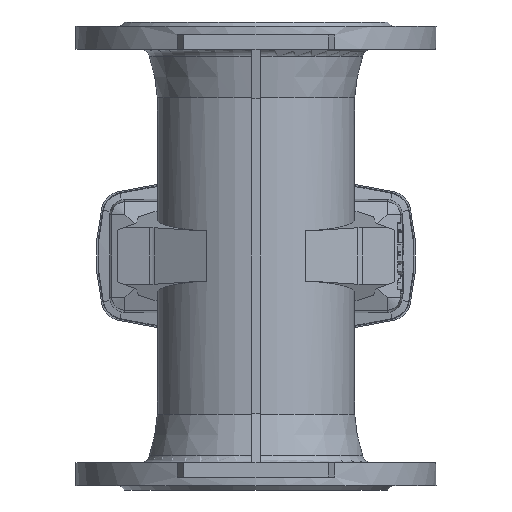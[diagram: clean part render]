
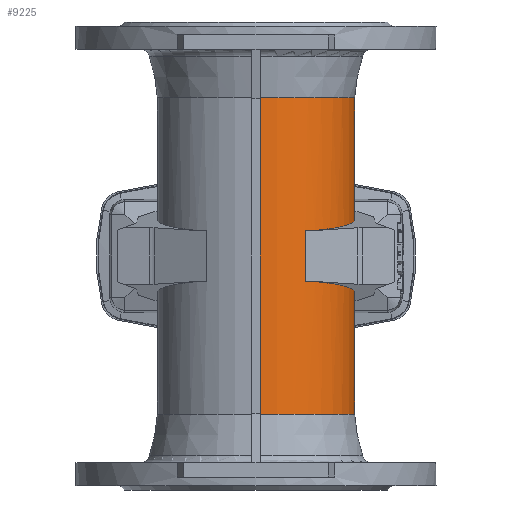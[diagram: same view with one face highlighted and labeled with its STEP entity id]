
A CAD part, front view. The second image highlights one B-rep face of the part: STEP entity #9225.
In plain terms, the highlighted cylindrical face has radius 68.5 mm (diameter 137 mm), a partial arc.
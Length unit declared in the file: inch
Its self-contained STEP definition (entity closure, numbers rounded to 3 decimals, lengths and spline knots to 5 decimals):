
#180 = AXIS2_PLACEMENT_3D ( 'NONE', #3824, #3825, #3826 ) ;
#181 = AXIS2_PLACEMENT_3D ( 'NONE', #3896, #3897, #3898 ) ;
#310 =( BOUNDED_CURVE ( )  B_SPLINE_CURVE ( 3, ( #3543, #3544, #3552, #3553 ),
 .UNSPECIFIED., .F., .F. ) 
 B_SPLINE_CURVE_WITH_KNOTS ( ( 4, 4 ),
 ( 4.07246, 4.18879 ),
 .UNSPECIFIED. ) 
 CURVE ( )  GEOMETRIC_REPRESENTATION_ITEM ( )  RATIONAL_B_SPLINE_CURVE ( ( 1., 0.999, 0.999, 1. ) ) 
 REPRESENTATION_ITEM ( '' )  );
#312 =( BOUNDED_CURVE ( )  B_SPLINE_CURVE ( 3, ( #3555, #3554, #3562, #3563 ),
 .UNSPECIFIED., .F., .F. ) 
 B_SPLINE_CURVE_WITH_KNOTS ( ( 4, 4 ),
 ( 4.07246, 4.18879 ),
 .UNSPECIFIED. ) 
 CURVE ( )  GEOMETRIC_REPRESENTATION_ITEM ( )  RATIONAL_B_SPLINE_CURVE ( ( 1., 0.999, 0.999, 1. ) ) 
 REPRESENTATION_ITEM ( '' )  );
#330 =( BOUNDED_CURVE ( )  B_SPLINE_CURVE ( 3, ( #3767, #3766, #3788, #3789 ),
 .UNSPECIFIED., .F., .F. ) 
 B_SPLINE_CURVE_WITH_KNOTS ( ( 4, 4 ),
 ( 0.16858, 2.62643 ),
 .UNSPECIFIED. ) 
 CURVE ( )  GEOMETRIC_REPRESENTATION_ITEM ( )  RATIONAL_B_SPLINE_CURVE ( ( 1., 0.557, 0.557, 1. ) ) 
 REPRESENTATION_ITEM ( '' )  );
#342 =( BOUNDED_CURVE ( )  B_SPLINE_CURVE ( 3, ( #3915, #3923, #3954, #3955 ),
 .UNSPECIFIED., .F., .F. ) 
 B_SPLINE_CURVE_WITH_KNOTS ( ( 4, 4 ),
 ( 0.16858, 2.62643 ),
 .UNSPECIFIED. ) 
 CURVE ( )  GEOMETRIC_REPRESENTATION_ITEM ( )  RATIONAL_B_SPLINE_CURVE ( ( 1., 0.557, 0.557, 1. ) ) 
 REPRESENTATION_ITEM ( '' )  );
#831 = ORIENTED_EDGE ( 'NONE', *, *, #10671, .F. ) ;
#833 = ORIENTED_EDGE ( 'NONE', *, *, #10666, .T. ) ;
#884 = ORIENTED_EDGE ( 'NONE', *, *, #10680, .T. ) ;
#2100 = AXIS2_PLACEMENT_3D ( 'NONE', #8785, #8783, #8778 ) ;
#2620 = LINE ( 'NONE', #3630, #2625 ) ;
#2625 = VECTOR ( 'NONE', #3631, 39.37008 ) ;
#2633 = LINE ( 'NONE', #3714, #2657 ) ;
#2657 = VECTOR ( 'NONE', #3715, 39.37008 ) ;
#2682 = CIRCLE ( 'NONE', #180, 2.69685 ) ;
#2688 = LINE ( 'NONE', #3852, #2694 ) ;
#2694 = VECTOR ( 'NONE', #3853, 39.37008 ) ;
#2699 = CIRCLE ( 'NONE', #181, 2.69685 ) ;
#3181 = LINE ( 'NONE', #9409, #3193 ) ;
#3193 = VECTOR ( 'NONE', #9439, 39.37008 ) ;
#3202 = ORIENTED_EDGE ( 'NONE', *, *, #8362, .T. ) ;
#3543 = CARTESIAN_POINT ( 'NONE',  ( 1.6104, -2.16324, -0.70024 ) ) ;
#3544 = CARTESIAN_POINT ( 'NONE',  ( 1.52647, -2.22572, -0.7017 ) ) ;
#3552 = CARTESIAN_POINT ( 'NONE',  ( 1.43904, -2.28322, -0.70323 ) ) ;
#3553 = CARTESIAN_POINT ( 'NONE',  ( 1.34843, -2.33554, -0.70481 ) ) ;
#3554 = CARTESIAN_POINT ( 'NONE',  ( 1.52647, -2.22572, 0.7017 ) ) ;
#3555 = CARTESIAN_POINT ( 'NONE',  ( 1.6104, -2.16324, 0.70024 ) ) ;
#3562 = CARTESIAN_POINT ( 'NONE',  ( 1.43904, -2.28322, 0.70323 ) ) ;
#3563 = CARTESIAN_POINT ( 'NONE',  ( 1.34843, -2.33554, 0.70481 ) ) ;
#3630 = CARTESIAN_POINT ( 'NONE',  ( 0.11811, -2.69426, 0. ) ) ;
#3631 = DIRECTION ( 'NONE',  ( 0., 0., -1. ) ) ;
#3714 = CARTESIAN_POINT ( 'NONE',  ( 0.11811, 2.69426, 0. ) ) ;
#3715 = DIRECTION ( 'NONE',  ( 0., 0., 1. ) ) ;
#3766 = CARTESIAN_POINT ( 'NONE',  ( 3.15713, 2.56104, -1.33693 ) ) ;
#3767 = CARTESIAN_POINT ( 'NONE',  ( 0.11811, 2.69426, -1.40922 ) ) ;
#3788 = CARTESIAN_POINT ( 'NONE',  ( 4.05045, -0.34677, -0.91252 ) ) ;
#3789 = CARTESIAN_POINT ( 'NONE',  ( 1.6104, -2.16324, -0.70024 ) ) ;
#3824 = CARTESIAN_POINT ( 'NONE',  ( 0., 0., -4.32215 ) ) ;
#3825 = DIRECTION ( 'NONE',  ( 0., 0., -1. ) ) ;
#3826 = DIRECTION ( 'NONE',  ( -1., 0., 0. ) ) ;
#3852 = CARTESIAN_POINT ( 'NONE',  ( 0.11811, 2.69426, 0. ) ) ;
#3853 = DIRECTION ( 'NONE',  ( 0., 0., -1. ) ) ;
#3896 = CARTESIAN_POINT ( 'NONE',  ( 0., 0., 4.32215 ) ) ;
#3897 = DIRECTION ( 'NONE',  ( 0., 0., -1. ) ) ;
#3898 = DIRECTION ( 'NONE',  ( -1., 0., 0. ) ) ;
#3915 = CARTESIAN_POINT ( 'NONE',  ( 0.11811, 2.69426, 1.40922 ) ) ;
#3923 = CARTESIAN_POINT ( 'NONE',  ( 3.15713, 2.56104, 1.33693 ) ) ;
#3954 = CARTESIAN_POINT ( 'NONE',  ( 4.05045, -0.34677, 0.91252 ) ) ;
#3955 = CARTESIAN_POINT ( 'NONE',  ( 1.6104, -2.16324, 0.70024 ) ) ;
#4393 = CARTESIAN_POINT ( 'NONE',  ( 1.6104, -2.16324, 0.70024 ) ) ;
#4407 = CARTESIAN_POINT ( 'NONE',  ( 0.11811, 2.69426, -1.40922 ) ) ;
#4411 = CARTESIAN_POINT ( 'NONE',  ( 1.6104, -2.16324, -0.70024 ) ) ;
#4413 = CARTESIAN_POINT ( 'NONE',  ( 0.11811, 2.69426, 4.32215 ) ) ;
#4416 = CARTESIAN_POINT ( 'NONE',  ( 0.11811, 2.69426, 1.40922 ) ) ;
#4441 = CARTESIAN_POINT ( 'NONE',  ( 1.34843, -2.33554, 0.70481 ) ) ;
#4450 = CARTESIAN_POINT ( 'NONE',  ( 1.34843, -2.33554, -0.70481 ) ) ;
#4458 = CARTESIAN_POINT ( 'NONE',  ( 0.11811, -2.69426, 4.32215 ) ) ;
#4629 = CARTESIAN_POINT ( 'NONE',  ( 0.11811, -2.69426, -4.32215 ) ) ;
#4707 = CARTESIAN_POINT ( 'NONE',  ( 0.11811, 2.69426, -4.32215 ) ) ;
#5211 = ORIENTED_EDGE ( 'NONE', *, *, #10675, .F. ) ;
#5213 = ORIENTED_EDGE ( 'NONE', *, *, #10627, .F. ) ;
#5223 = ORIENTED_EDGE ( 'NONE', *, *, #10641, .T. ) ;
#5251 = EDGE_LOOP ( 'NONE', ( #3202, #5213, #7455, #8353, #884, #5223, #831, #5211, #833, #7457 ) ) ;
#6302 = FACE_OUTER_BOUND ( 'NONE', #5251, .T. ) ;
#6305 = CYLINDRICAL_SURFACE ( 'NONE', #2100, 2.69685 ) ;
#7455 = ORIENTED_EDGE ( 'NONE', *, *, #10689, .F. ) ;
#7457 = ORIENTED_EDGE ( 'NONE', *, *, #10624, .T. ) ;
#7791 = VERTEX_POINT ( 'NONE', #4393 ) ;
#7807 = VERTEX_POINT ( 'NONE', #4407 ) ;
#7812 = VERTEX_POINT ( 'NONE', #4411 ) ;
#7817 = VERTEX_POINT ( 'NONE', #4413 ) ;
#7820 = VERTEX_POINT ( 'NONE', #4416 ) ;
#7845 = VERTEX_POINT ( 'NONE', #4441 ) ;
#7854 = VERTEX_POINT ( 'NONE', #4450 ) ;
#7862 = VERTEX_POINT ( 'NONE', #4458 ) ;
#8220 = VERTEX_POINT ( 'NONE', #4629 ) ;
#8298 = VERTEX_POINT ( 'NONE', #4707 ) ;
#8353 = ORIENTED_EDGE ( 'NONE', *, *, #10655, .T. ) ;
#8362 = EDGE_CURVE ( 'NONE', #7854, #7845, #3181, .T. ) ;
#8778 = DIRECTION ( 'NONE',  ( -1., 0., 0. ) ) ;
#8783 = DIRECTION ( 'NONE',  ( 0., 0., -1. ) ) ;
#8785 = CARTESIAN_POINT ( 'NONE',  ( 0., 0., 0. ) ) ;
#9225 = ADVANCED_FACE ( 'NONE', ( #6302 ), #6305, .T. ) ;
#9409 = CARTESIAN_POINT ( 'NONE',  ( 1.34843, -2.33554, -6.39764 ) ) ;
#9439 = DIRECTION ( 'NONE',  ( 0., 0., 1. ) ) ;
#10624 = EDGE_CURVE ( 'NONE', #7812, #7854, #310, .T. ) ;
#10627 = EDGE_CURVE ( 'NONE', #7791, #7845, #312, .T. ) ;
#10641 = EDGE_CURVE ( 'NONE', #7862, #8220, #2620, .T. ) ;
#10655 = EDGE_CURVE ( 'NONE', #7820, #7817, #2633, .T. ) ;
#10666 = EDGE_CURVE ( 'NONE', #7807, #7812, #330, .T. ) ;
#10671 = EDGE_CURVE ( 'NONE', #8298, #8220, #2682, .T. ) ;
#10675 = EDGE_CURVE ( 'NONE', #7807, #8298, #2688, .T. ) ;
#10680 = EDGE_CURVE ( 'NONE', #7817, #7862, #2699, .T. ) ;
#10689 = EDGE_CURVE ( 'NONE', #7820, #7791, #342, .T. ) ;
